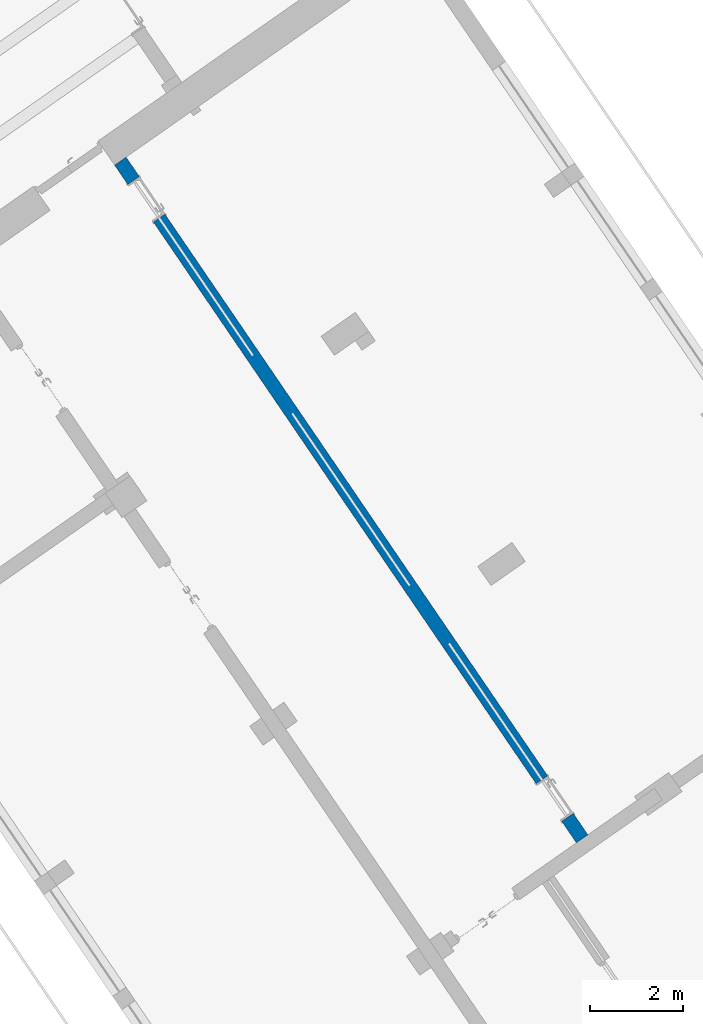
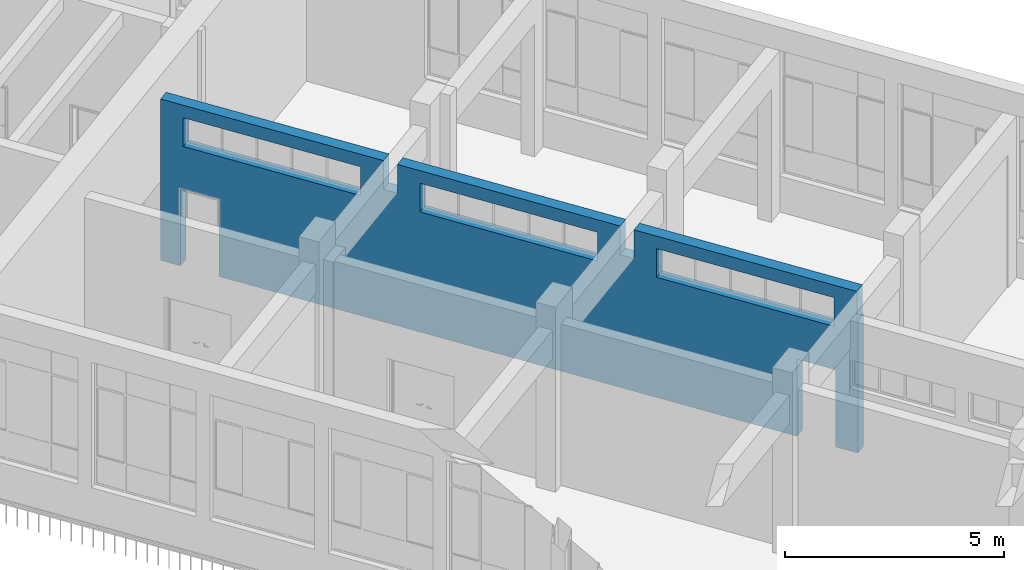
# One storey, part 127 of 157: 1 wall, 5 openings.
"""IFC2X3 building model written with IfcOpenShell, lengths in millimetres."""

from ifc_helpers import new_model, entity, si_unit, converted_unit, derived_unit, direction, frame, frame_2d, origin, place, context, subcontext, project, spatial, rectangle, extrude, faceted_brep, material, layer, layer_set, type_object, element, save


model = new_model("IFC2X3")

# Units and contexts
model_context = context("Model", 3, precision=0.01, world=origin(), true_north=direction((6.123031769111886e-17, 1.0)))
body_context = subcontext(model_context, "Body", "Model", "MODEL_VIEW")
ifc_project = project(units=[si_unit("LENGTHUNIT", "METRE", prefix="MILLI"), si_unit("AREAUNIT", "SQUARE_METRE"), si_unit("VOLUMEUNIT", "CUBIC_METRE"), converted_unit("PLANEANGLEUNIT", "DEGREE", entity("IfcRatioMeasure", 0.017453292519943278), si_unit("PLANEANGLEUNIT", "RADIAN"), dimensions=[0, 0, 0, 0, 0, 0, 0]), si_unit("MASSUNIT", "GRAM", prefix="KILO"), derived_unit("MASSDENSITYUNIT", [(si_unit("MASSUNIT", "GRAM", prefix="KILO"), 1), (si_unit("LENGTHUNIT", "METRE"), -3)]), derived_unit("MOMENTOFINERTIAUNIT", [(si_unit("LENGTHUNIT", "METRE"), 4)]), si_unit("TIMEUNIT", "SECOND"), si_unit("FREQUENCYUNIT", "HERTZ"), si_unit("THERMODYNAMICTEMPERATUREUNIT", "DEGREE_CELSIUS"), derived_unit("THERMALTRANSMITTANCEUNIT", [(si_unit("MASSUNIT", "GRAM", prefix="KILO"), 1), (si_unit("THERMODYNAMICTEMPERATUREUNIT", "KELVIN"), -1), (si_unit("TIMEUNIT", "SECOND"), -3)]), derived_unit("THERMALCONDUCTANCEUNIT", [(si_unit("MASSUNIT", "GRAM", prefix="KILO"), 1), (si_unit("LENGTHUNIT", "METRE"), 1), (si_unit("THERMODYNAMICTEMPERATUREUNIT", "KELVIN"), -1), (si_unit("TIMEUNIT", "SECOND"), -3)]), derived_unit("VOLUMETRICFLOWRATEUNIT", [(si_unit("LENGTHUNIT", "METRE"), 3), (si_unit("TIMEUNIT", "SECOND"), -1)]), derived_unit("MASSFLOWRATEUNIT", [(si_unit("MASSUNIT", "GRAM", prefix="KILO"), 1), (si_unit("TIMEUNIT", "SECOND"), -1)]), derived_unit("ROTATIONALFREQUENCYUNIT", [(si_unit("TIMEUNIT", "SECOND"), -1)]), si_unit("ELECTRICCURRENTUNIT", "AMPERE"), si_unit("ELECTRICVOLTAGEUNIT", "VOLT"), si_unit("POWERUNIT", "WATT"), converted_unit("FORCEUNIT", "KIP", entity("IfcRatioMeasure", 2.088543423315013e-05), si_unit("FORCEUNIT", "NEWTON"), dimensions=[1, 1, -2, 0, 0, 0, 0]), si_unit("ILLUMINANCEUNIT", "LUX"), si_unit("LUMINOUSFLUXUNIT", "LUMEN"), si_unit("LUMINOUSINTENSITYUNIT", "CANDELA"), derived_unit("USERDEFINED", [(si_unit("MASSUNIT", "GRAM", prefix="KILO"), -1), (si_unit("LENGTHUNIT", "METRE"), -2), (si_unit("TIMEUNIT", "SECOND"), 3), (si_unit("LUMINOUSFLUXUNIT", "LUMEN"), 1)]), derived_unit("USERDEFINED", [(si_unit("MASSUNIT", "GRAM", prefix="KILO"), 1), (si_unit("LENGTHUNIT", "METRE"), 3), (si_unit("TIMEUNIT", "SECOND"), -3), (si_unit("ELECTRICCURRENTUNIT", "AMPERE"), -2)]), derived_unit("USERDEFINED", [(si_unit("LENGTHUNIT", "METRE"), 2), (si_unit("TIMEUNIT", "SECOND"), -2)]), derived_unit("SOUNDPOWERUNIT", [(si_unit("MASSUNIT", "GRAM", prefix="KILO"), 1), (si_unit("LENGTHUNIT", "METRE"), 2), (si_unit("TIMEUNIT", "SECOND"), -3)]), derived_unit("SOUNDPRESSUREUNIT", [(si_unit("MASSUNIT", "GRAM", prefix="KILO"), 1), (si_unit("LENGTHUNIT", "METRE"), -1), (si_unit("TIMEUNIT", "SECOND"), -2)]), derived_unit("LINEARVELOCITYUNIT", [(si_unit("LENGTHUNIT", "METRE"), 1), (si_unit("TIMEUNIT", "SECOND"), -1)]), si_unit("PRESSUREUNIT", "PASCAL"), derived_unit("USERDEFINED", [(si_unit("LENGTHUNIT", "METRE"), -2), (si_unit("MASSUNIT", "GRAM", prefix="KILO"), 1), (si_unit("TIMEUNIT", "SECOND"), -2)]), derived_unit("LINEARFORCEUNIT", [(si_unit("MASSUNIT", "GRAM", prefix="KILO"), 1), (si_unit("LENGTHUNIT", "METRE"), 1), (si_unit("TIMEUNIT", "SECOND"), -2), (si_unit("LENGTHUNIT", "METRE"), -1)]), derived_unit("PLANARFORCEUNIT", [(si_unit("MASSUNIT", "GRAM", prefix="KILO"), 1), (si_unit("LENGTHUNIT", "METRE"), 1), (si_unit("TIMEUNIT", "SECOND"), -2), (si_unit("LENGTHUNIT", "METRE"), -2)]), derived_unit("SPECIFICHEATCAPACITYUNIT", [(si_unit("LENGTHUNIT", "METRE"), 2), (si_unit("TIMEUNIT", "SECOND"), -2), (si_unit("THERMODYNAMICTEMPERATUREUNIT", "KELVIN"), -1)]), derived_unit("VAPORPERMEABILITYUNIT", [(si_unit("TIMEUNIT", "SECOND"), 1), (si_unit("LENGTHUNIT", "METRE"), -1)]), derived_unit("DYNAMICVISCOSITYUNIT", [(si_unit("MASSUNIT", "GRAM", prefix="KILO"), 1), (si_unit("LENGTHUNIT", "METRE"), -1), (si_unit("TIMEUNIT", "SECOND"), -1)]), derived_unit("THERMALEXPANSIONCOEFFICIENTUNIT", [(si_unit("THERMODYNAMICTEMPERATUREUNIT", "KELVIN"), -1)])], contexts=[model_context])

# Site, building, storey
site_placement = place(None, frame((0.0, 0.0, 0.0), z_axis=(0.0, 0.0, 1.0), x_axis=(0.8191520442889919, 0.5735764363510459, 0.0)))
site = spatial("IfcSite", under=ifc_project, at=site_placement, Name="Default", CompositionType="ELEMENT")
building_placement = place(site_placement, origin())
building = spatial("IfcBuilding", under=site, at=building_placement, CompositionType="ELEMENT")
storey_placement = place(building_placement, origin())
storey = spatial("IfcBuildingStorey", under=building, at=storey_placement, Name="1.EG +0.00", CompositionType="ELEMENT", Elevation=-4.331468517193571e-12)

# Wall, openings
ifc_material = material(Name="Analytical Wall Surface_CJC")
ifc_layer = layer(ifc_material, 300.0)
ifc_layer_set = layer_set([ifc_layer], Name="Basic Wall:Wand_Innen_30")
wall_type = type_object("IfcWallType", Name="Basic Wall:Wand_Innen_30", PredefinedType="STANDARD", material=ifc_layer_set)
wall_placement = place(storey_placement, frame((-213206.32020927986, 85544.44947620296, 0.0), z_axis=(0.0, 0.0, 1.0), x_axis=(0.012729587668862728, 0.999918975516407, 0.0)))
wall = element("IfcWall", 1, at=wall_placement, inside=storey, type_object=wall_type, Name="Basic Wall:Wand_Innen_30", ObjectType="Basic Wall:Wand_Innen_30", context=body_context, shape_type="Brep", body=[
    faceted_brep([(17680.25140954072, -150.0, 0.0), (17680.251409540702, -150.0, 4500.0), (12029.79358411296, -150.0, 4500.0), (12029.793584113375, -150.0, 3700.0), (11679.765223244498, -150.0, 3700.0), (11679.765223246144, -150.0, 4500.0), (6029.307397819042, -150.0, 4500.0), (6029.307397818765, -150.0, 3700.0), (5679.279036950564, -150.0, 3700.0), (5679.2790369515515, -150.0, 4500.0), (28.8212115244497, -150.0, 4500.0), (28.8212115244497, -150.0, 3700.0), (3.81918574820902, -150.0, 3700.0), (3.81918574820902, -150.0, 0.0), (562.206842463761, -150.0, 0.0), (562.206842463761, -150.0, 2150.0), (1542.2068424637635, -150.0, 2150.0), (1542.2068424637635, -150.0, 0.0), (16192.206842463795, -150.0, 0.0), (16192.206842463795, -150.0, 2150.0), (17172.206842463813, -150.0, 2150.0), (17172.2068424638, -150.0, 0.0), (6602.3084521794, -150.0, 3350.0), (6602.308452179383, -150.0, 4150.0), (11102.308452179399, -150.0, 4150.0), (11102.308452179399, -150.0, 3350.0), (602.308452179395, -150.0, 3350.0), (602.3084521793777, -150.0, 4150.0), (5102.308452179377, -150.0, 4150.0), (5102.308452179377, -150.0, 3350.0), (12602.308452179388, -150.0, 3350.0), (12602.30845217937, -150.0, 4150.0), (17102.308452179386, -150.0, 4150.0), (17102.308452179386, -150.0, 3350.0), (17676.43222379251, 150.0, 4500.0), (17676.43222379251, 150.0, 0.0), (17172.206842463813, 150.0, 0.0), (17172.20684246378, 150.0, 2150.0), (16192.206842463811, 150.0, 2150.0), (16192.206842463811, 150.0, 0.0), (1542.2068424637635, 150.0, 0.0), (1542.206842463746, 150.0, 2150.0), (562.206842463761, 150.0, 2150.0), (562.206842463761, 150.0, 0.0), (0.0, 150.0, 0.0), (0.0, 150.0, 3700.0), (25.002025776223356, 150.0, 3700.0), (25.002025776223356, 150.0, 4500.0), (5675.459851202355, 150.0, 4500.0), (5675.45985120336, 150.0, 3700.0), (6025.4882120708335, 150.0, 3700.0), (6025.488212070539, 150.0, 4500.0), (11675.94603749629, 150.0, 4500.0), (11675.946037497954, 150.0, 3700.0), (12025.974398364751, 150.0, 3700.0), (12025.97439836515, 150.0, 4500.0), (6602.308452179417, 150.0, 4150.0), (6602.3084521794, 150.0, 3350.0), (11102.308452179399, 150.0, 3350.0), (11102.308452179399, 150.0, 4150.0), (602.308452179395, 150.0, 4150.0), (602.3084521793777, 150.0, 3350.0), (5102.308452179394, 150.0, 3350.0), (5102.308452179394, 150.0, 4150.0), (12602.308452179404, 150.0, 4150.0), (12602.308452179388, 150.0, 3350.0), (17102.308452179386, 150.0, 3350.0), (17102.308452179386, 150.0, 4150.0), (17676.464448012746, 147.46876252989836, 0.0)], [[[0, 1, 2, 3, 4, 5, 6, 7, 8, 9, 10, 11, 12, 13, 14, 15, 16, 17, 18, 19, 20, 21], [22, 23, 24, 25], [26, 27, 28, 29], [30, 31, 32, 33]], [[34, 35, 36, 37, 38, 39, 40, 41, 42, 43, 44, 45, 46, 47, 48, 49, 50, 51, 52, 53, 54, 55], [56, 57, 58, 59], [60, 61, 62, 63], [64, 65, 66, 67]], [[43, 14, 13, 44]], [[1, 34, 55, 2]], [[1, 0, 68, 35, 34]], [[50, 7, 6, 51]], [[8, 49, 48, 9]], [[7, 50, 49, 8]], [[54, 3, 2, 55]], [[4, 53, 52, 5]], [[3, 54, 53, 4]], [[21, 20, 37, 36]], [[20, 19, 38, 37]], [[19, 18, 39, 38]], [[42, 15, 14, 43]], [[15, 42, 41, 16]], [[16, 41, 40, 17]], [[46, 45, 12, 11]], [[13, 12, 45, 44]], [[46, 11, 10, 47]], [[23, 22, 57, 56]], [[24, 23, 56, 59]], [[25, 24, 59, 58]], [[22, 25, 58, 57]], [[27, 26, 61, 60]], [[28, 27, 60, 63]], [[29, 28, 63, 62]], [[26, 29, 62, 61]], [[31, 30, 65, 64]], [[32, 31, 64, 67]], [[33, 32, 67, 66]], [[30, 33, 66, 65]], [[10, 9, 48, 47]], [[51, 6, 5, 52]], [[39, 18, 17, 40]], [[35, 68, 0, 21, 36]]]),
])
opening_1_placement = place(wall_placement, frame((17172.206842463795, 150.0, 0.0)))
element("IfcOpeningElement", 2, at=opening_1_placement, cuts=wall, Name="Doors_IntSgl:90x210:1", ObjectType="Opening", context=body_context, shape_type="SweptSolid", body=[
    extrude(rectangle(XDim=2150.000000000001, YDim=979.9999999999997, at=frame_2d((1075.0000000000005, 490.0000000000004), x_axis=(1.0, 0.0))), frame((0.0, 0.0, 0.0), z_axis=(0.0, -1.0, 0.0), x_axis=(0.0, 0.0, 1.0)), (0.0, 0.0, 1.0), 300.0),
])
opening_2_placement = place(wall_placement, frame((1542.2068424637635, 150.0, 0.0)))
element("IfcOpeningElement", 3, at=opening_2_placement, cuts=wall, Name="Doors_IntSgl:90x210:1", ObjectType="Opening", context=body_context, shape_type="SweptSolid", body=[
    extrude(rectangle(XDim=2150.000000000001, YDim=979.9999999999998, at=frame_2d((1075.0000000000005, 489.9999999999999), x_axis=(1.0, 0.0))), frame((0.0, 0.0, 0.0), z_axis=(0.0, -1.0, 0.0), x_axis=(0.0, 0.0, 1.0)), (0.0, 0.0, 1.0), 300.0),
])
opening_3_placement = place(wall_placement, frame((6602.308452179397, -150.0, 3350.0)))
element("IfcOpeningElement", 4, at=opening_3_placement, cuts=wall, Name="Fenster_Corridor450x80x335_CJC:Fenster_Corridor450x80x335_CJC:1", ObjectType="Opening", context=body_context, shape_type="SweptSolid", body=[
    extrude(rectangle(XDim=799.9999999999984, YDim=4500.000000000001, at=frame_2d((399.9999999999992, 2250.0000000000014), x_axis=(1.0, 0.0))), frame((0.0, 0.0, 0.0), z_axis=(0.0, 1.0, 0.0), x_axis=(0.0, 0.0, 1.0)), (0.0, 0.0, 1.0), 300.0),
])
opening_4_placement = place(wall_placement, frame((602.3084521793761, -150.0, 3350.0)))
element("IfcOpeningElement", 5, at=opening_4_placement, cuts=wall, Name="Fenster_Corridor450x80x335_CJC:Fenster_Corridor450x80x335_CJC:1", ObjectType="Opening", context=body_context, shape_type="SweptSolid", body=[
    extrude(rectangle(XDim=799.9999999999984, YDim=4500.000000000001, at=frame_2d((399.9999999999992, 2250.0000000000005), x_axis=(1.0, 0.0))), frame((0.0, 0.0, 0.0), z_axis=(0.0, 1.0, 0.0), x_axis=(0.0, 0.0, 1.0)), (0.0, 0.0, 1.0), 300.0),
])
opening_5_placement = place(wall_placement, frame((12602.308452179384, -150.0, 3350.0)))
element("IfcOpeningElement", 6, at=opening_5_placement, cuts=wall, Name="Fenster_Corridor450x80x335_CJC:Fenster_Corridor450x80x335_CJC:1", ObjectType="Opening", context=body_context, shape_type="SweptSolid", body=[
    extrude(rectangle(XDim=799.9999999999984, YDim=4500.000000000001, at=frame_2d((399.9999999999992, 2250.0000000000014), x_axis=(1.0, 0.0))), frame((0.0, 0.0, 0.0), z_axis=(0.0, 1.0, 0.0), x_axis=(0.0, 0.0, 1.0)), (0.0, 0.0, 1.0), 300.0),
])

save(model, "model.ifc")
